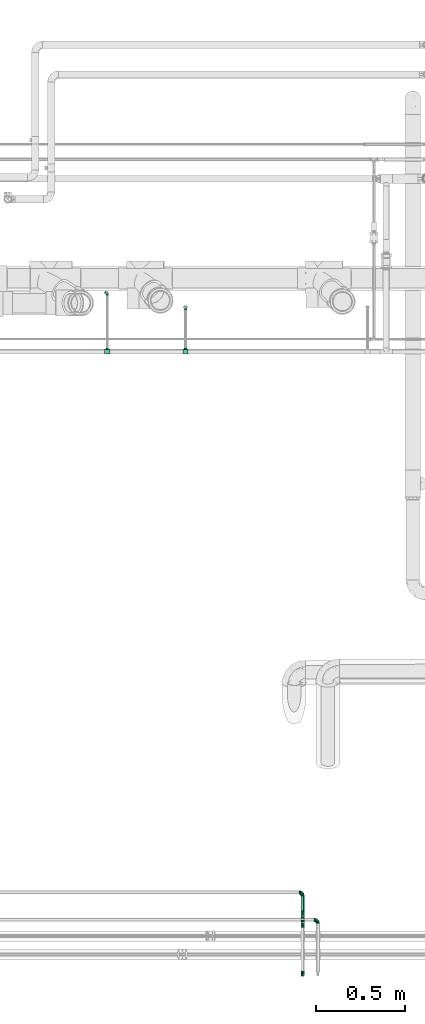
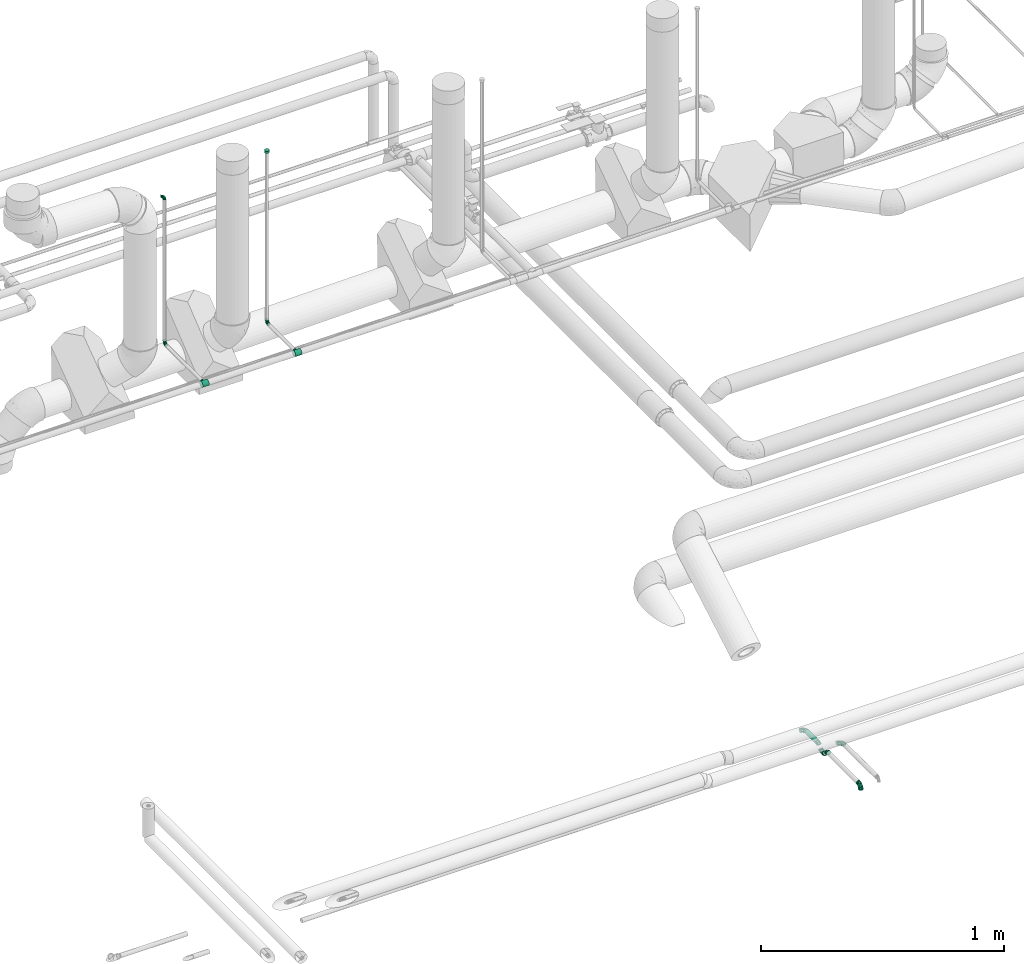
# One storey, part 83 of 156: 13 flow fittings, 1 flow segment.
"""IFC2X3 building model written with IfcOpenShell, lengths in millimetres."""

from ifc_helpers import new_model, entity, si_unit, converted_unit, derived_unit, direction, frame, origin_with_axes, origin_2d_with_axis, place, context, subcontext, project, spatial, hollow_circle, extrude, open_shell, surface_model, source, transform, mapped, type_object, element, save


model = new_model("IFC2X3")

# Units and contexts
model_context = context("Model", 3, precision=0.01, world=frame((0.0, 4.29681676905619e-09, 0.0)), true_north=direction((4.01073788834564e-13, 1.0)))
plan_context = context("Plan", 3, precision=0.01, world=frame((0.0, 4.29681676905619e-09, 0.0)), true_north=direction((4.01073788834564e-13, 1.0)))
body_context = subcontext(model_context, "Body", "Model", "MODEL_VIEW")
ifc_project = project(units=[converted_unit("PLANEANGLEUNIT", "DEGREE", entity("IfcPositiveLengthMeasure", 0.0174532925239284), si_unit("PLANEANGLEUNIT", "RADIAN"), dimensions=[0, 0, 0, 0, 0, 0, 0]), si_unit("AREAUNIT", "SQUARE_METRE"), si_unit("LENGTHUNIT", "METRE", prefix="MILLI"), si_unit("MASSUNIT", "GRAM", prefix="KILO"), si_unit("POWERUNIT", "WATT"), si_unit("PRESSUREUNIT", "PASCAL", prefix="KILO"), si_unit("FORCEUNIT", "NEWTON", prefix="KILO"), si_unit("ELECTRICVOLTAGEUNIT", "VOLT"), si_unit("ELECTRICCURRENTUNIT", "AMPERE"), si_unit("THERMODYNAMICTEMPERATUREUNIT", "DEGREE_CELSIUS"), si_unit("TIMEUNIT", "SECOND"), si_unit("VOLUMEUNIT", "CUBIC_METRE"), derived_unit("LINEARVELOCITYUNIT", [(si_unit("LENGTHUNIT", "METRE"), 1), (si_unit("TIMEUNIT", "SECOND"), -1)]), derived_unit("VOLUMETRICFLOWRATEUNIT", [(si_unit("VOLUMEUNIT", "CUBIC_METRE"), 1), (si_unit("TIMEUNIT", "SECOND"), -1)]), derived_unit("THERMALTRANSMITTANCEUNIT", [(si_unit("POWERUNIT", "WATT"), 1), (si_unit("THERMODYNAMICTEMPERATUREUNIT", "KELVIN"), -1), (si_unit("AREAUNIT", "SQUARE_METRE"), -1)]), derived_unit("SOUNDPRESSUREUNIT", [(si_unit("PRESSUREUNIT", "PASCAL"), 1)])], contexts=[model_context, plan_context])

# Site, building, storey
site_placement = place(None, frame((0.0, -4.29681676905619e-09, 0.0), z_axis=(0.0, 0.0, 1.0), x_axis=(1.0, 0.0, 0.0)))
site = spatial("IfcSite", under=ifc_project, at=site_placement, CompositionType="ELEMENT")
building_placement = place(site_placement, frame((0.0, 4.29681676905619e-09, 0.0), z_axis=(0.0, 0.0, 1.0), x_axis=(1.0, 0.0, 0.0)))
building = spatial("IfcBuilding", under=site, at=building_placement, Name="mc-building", CompositionType="ELEMENT")
storey_placement = place(building_placement, frame((0.0, 0.0, 205200.0), z_axis=(0.0, 0.0, 1.0), x_axis=(1.0, 0.0, 0.0)))
storey = spatial("IfcBuildingStorey", under=building, at=storey_placement, Name="Nivå D + 1,2 m", CompositionType="ELEMENT", Elevation=205200.0)

# Flow fittings
pipe_fitting_type_1 = type_object("IfcPipeFittingType", Name="magi_pipe_elbow_short_001", PredefinedType="BEND")
shared_shape_1 = source(origin_with_axes(), body_context, "Body", "SurfaceModel", [
    surface_model("IfcShellBasedSurfaceModel", [(-15.0, 0.0, -7.5), (-15.0, -6.49519, -3.75), (-15.0, 1.94114, -7.24444), (-15.0, 3.75, -6.49519), (-15.0, 5.3033, -5.3033), (-15.0, 7.24444, -1.94114), (-15.0, 6.49519, -3.75), (-15.0, -5.3033, -5.3033), (-15.0, -3.75, -6.49519), (-15.0, -1.94114, -7.24444), (-15.0, -7.24444, -1.94114), (-15.0, -7.5, 0.0), (-15.0, -6.49519, 3.75), (-15.0, 7.24444, 1.94114), (-15.0, 6.49519, 3.75), (-15.0, 3.75, 6.49519), (-15.0, 1.94114, 7.24444), (-15.0, 5.3033, 5.3033), (-15.0, -5.3033, 5.3033), (-15.0, -7.24444, 1.94114), (-15.0, -1.94114, 7.24444), (-15.0, 0.0, 7.5), (-15.0, -3.75, 6.49519), (-15.0, 7.5, 0.0), (-1.94114, 15.0, -7.24444), (6.49519, 15.0, -3.75), (0.0, 15.0, -7.5), (-5.3033, 15.0, -5.3033), (-3.75, 15.0, -6.49519), (-6.49519, 15.0, -3.75), (-7.24444, 15.0, -1.94114), (3.75, 15.0, -6.49519), (5.3033, 15.0, -5.3033), (1.94114, 15.0, -7.24444), (7.5, 15.0, 0.0), (7.24444, 15.0, -1.94114), (-7.24444, 15.0, 1.94114), (6.49519, 15.0, 3.75), (-3.75, 15.0, 6.49519), (-6.49519, 15.0, 3.75), (-1.94114, 15.0, 7.24444), (-5.3033, 15.0, 5.3033), (5.3033, 15.0, 5.3033), (7.24444, 15.0, 1.94114), (3.75, 15.0, 6.49519), (0.0, 15.0, 7.5), (1.94114, 15.0, 7.24444), (-7.5, 15.0, 0.0), (-13.40845, -7.07355, 0.0), (-8.7589, -2.47707, 6.60232), (-8.6338, -5.79418, 0.0), (-3.75, -4.48557, 0.0), (0.36779, -0.36779, 0.0), (2.42668, 1.69111, 0.0), (-2.25176, 0.98822, 6.3797), (-1.69111, -2.42668, 0.0), (-11.8169, -6.64709, 0.0), (-5.9304, 5.9304, 7.17811), (-4.11647, 8.02676, 7.20749), (2.47708, 8.7589, 6.60232), (1.67739, 4.87408, 5.99192), (4.48557, 3.75, 0.0), (-4.78013, -1.73268, 5.91836), (7.07355, 13.40845, 0.0), (6.64709, 11.8169, 0.0), (-8.02675, 4.11647, 7.20749), (-8.59835, 12.34835, 0.0), (-12.34835, 8.59835, 0.0), (-9.6967, 9.6967, 0.0), (5.79418, 8.6338, 0.0), (-8.7589, -2.47707, -6.60232), (-4.11647, 8.02676, -7.20749), (0.71542, 3.43733, -5.99192), (-2.23993, 1.78364, -6.69976), (2.47708, 8.7589, -6.60232), (-11.39207, 6.08032, -5.22727), (-7.08629, 1.82323, -7.49084), (-8.19523, 6.76007, -6.13545)], [open_shell([[[0, 1, 2]], [[3, 2, 4]], [[5, 6, 4]], [[4, 2, 1]], [[5, 4, 1]], [[7, 1, 8]], [[9, 8, 1]], [[10, 11, 1]], [[0, 9, 1]], [[11, 12, 1]], [[12, 5, 1]], [[13, 5, 12]], [[14, 13, 15]], [[13, 16, 15]], [[17, 14, 15]], [[16, 13, 12]], [[12, 18, 16]], [[12, 11, 19]], [[20, 21, 22]], [[18, 22, 21]], [[16, 18, 21]], [[13, 23, 5]], [[24, 25, 26]], [[27, 24, 28]], [[27, 29, 30]], [[25, 24, 27]], [[25, 27, 30]], [[31, 25, 32]], [[25, 31, 33]], [[25, 34, 35]], [[25, 33, 26]], [[30, 34, 25]], [[30, 36, 34]], [[34, 36, 37]], [[38, 36, 39]], [[38, 40, 36]], [[38, 39, 41]], [[37, 36, 40]], [[40, 42, 37]], [[43, 34, 37]], [[44, 45, 46]], [[45, 44, 42]], [[45, 42, 40]], [[36, 30, 47]], [[19, 48, 12]], [[49, 50, 51]], [[52, 53, 54]], [[54, 55, 52]], [[22, 18, 56]], [[12, 56, 18]], [[57, 54, 58]], [[22, 50, 20]], [[21, 20, 50]], [[59, 60, 61]], [[59, 58, 60]], [[55, 54, 62]], [[21, 50, 49]], [[21, 49, 16]], [[62, 49, 51]], [[62, 51, 55]], [[37, 63, 43]], [[49, 15, 16]], [[64, 63, 37]], [[13, 65, 23]], [[14, 17, 49]], [[54, 65, 62]], [[15, 49, 17]], [[57, 58, 66]], [[67, 57, 68]], [[53, 60, 54]], [[46, 45, 69]], [[69, 44, 46]], [[41, 59, 38]], [[40, 59, 45]], [[42, 44, 64]], [[54, 60, 58]], [[64, 44, 69]], [[61, 60, 53]], [[43, 63, 34]], [[59, 61, 69]], [[58, 47, 66]], [[22, 56, 50]], [[54, 57, 65]], [[49, 65, 14]], [[36, 47, 58]], [[64, 37, 42]], [[39, 36, 58]], [[14, 65, 13]], [[41, 39, 59]], [[19, 11, 48]], [[39, 58, 59]], [[48, 56, 12]], [[38, 59, 40]], [[59, 69, 45]], [[49, 62, 65]], [[57, 67, 65]], [[66, 68, 57]], [[67, 23, 65]], [[70, 50, 0]], [[71, 72, 73]], [[74, 71, 29]], [[70, 2, 3]], [[70, 51, 50]], [[35, 34, 63]], [[75, 4, 6]], [[75, 5, 23]], [[6, 5, 75]], [[51, 76, 55]], [[75, 23, 67]], [[70, 4, 75]], [[48, 11, 10]], [[8, 56, 7]], [[0, 50, 9]], [[51, 70, 76]], [[56, 8, 50]], [[8, 9, 50]], [[70, 0, 2]], [[66, 47, 71]], [[52, 72, 53]], [[4, 70, 3]], [[70, 75, 76]], [[73, 52, 55]], [[71, 68, 66]], [[61, 53, 72]], [[31, 64, 69]], [[30, 71, 47]], [[27, 74, 29]], [[56, 1, 7]], [[28, 24, 74]], [[63, 64, 25]], [[56, 48, 1]], [[28, 74, 27]], [[1, 48, 10]], [[26, 74, 24]], [[33, 69, 26]], [[29, 71, 30]], [[32, 64, 31]], [[69, 33, 31]], [[68, 71, 77]], [[74, 26, 69]], [[25, 35, 63]], [[61, 72, 74]], [[61, 74, 69]], [[67, 77, 75]], [[74, 72, 71]], [[25, 64, 32]], [[76, 77, 73]], [[75, 77, 76]], [[77, 71, 73]], [[55, 76, 73]], [[72, 52, 73]], [[77, 67, 68]]])]),
])
for number, where, z_axis, x_axis, name in (
    (1, (325167.58098, 462642.63355, 4318.0), (1.0, 0.0, 0.0), (0.0, 1.0, 0.0), "magi_pipe_elbow_short_001"),
    (2, (325607.72814, 462562.63355, 4318.0), (1.0, 0.0, 0.0), (0.0, 1.0, 0.0), "magi_pipe_elbow_short_001"),
    (3, (325167.58098, 462642.63355, 5058.84474), (-0.342019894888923, -0.939692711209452, 0.0), (0.0, 0.0, 1.0), "magi_pipe_elbow_short_001"),
):
    element("IfcFlowFitting", number, at=place(storey_placement, frame(where, z_axis=z_axis, x_axis=x_axis)), inside=storey, type_object=pipe_fitting_type_1, Name=name, context=body_context, shape_type="MappedRepresentation", body=[
        mapped(shared_shape_1, transform((0.0, 0.0, 0.0), scale=1.0)),
    ])
pipe_fitting_type_2 = type_object("IfcPipeFittingType", Name="magi_pipe_fe_plug_001", PredefinedType="OBSTRUCTION")
shared_shape_2 = source(origin_with_axes(), body_context, "Body", "SurfaceModel", [
    surface_model("IfcShellBasedSurfaceModel", [(0.0, 5.35, -9.26647), (0.0, 2.76936, -10.33541), (0.0, 0.0, -10.7), (0.0, 7.56604, -7.56604), (0.0, 9.26647, -5.35), (0.0, 0.0, 10.7), (0.0, -7.56604, -7.56604), (0.0, -10.7, 0.0), (0.0, -2.76936, -10.33541), (0.0, -5.35, -9.26647), (0.0, -10.33541, -2.76936), (0.0, -9.26647, -5.35), (0.0, 10.33541, -2.76936), (0.0, 10.7, 0.0), (0.0, 10.33541, 2.76936), (0.0, 2.76936, 10.33541), (0.0, 9.26647, 5.35), (0.0, 5.35, 9.26647), (0.0, 7.56604, 7.56604), (0.0, -9.26647, 5.35), (0.0, -7.56604, 7.56604), (0.0, -10.33541, 2.76936), (0.0, -5.35, 9.26647), (0.0, -2.76936, 10.33541), (10.7, 0.0, -10.7), (10.7, 2.76936, -10.33541), (10.7, 5.35, -9.26647), (10.7, -2.76936, -10.33541), (10.7, 9.26647, 5.35), (10.7, -10.7, 0.0), (10.7, 7.56604, -7.56604), (10.7, 10.7, 0.0), (10.7, 9.26647, -5.35), (10.7, -7.56604, -7.56604), (10.7, -5.35, -9.26647), (10.7, -10.33541, -2.76936), (10.7, -9.26647, -5.35), (10.7, 10.33541, -2.76936), (10.7, 10.33541, 2.76936), (10.7, 2.76936, 10.33541), (10.7, 5.35, 9.26647), (10.7, 7.56604, 7.56604), (10.7, 0.0, 10.7), (10.7, -10.33541, 2.76936), (10.7, -7.56604, 7.56604), (10.7, -9.26647, 5.35), (10.7, -2.76936, 10.33541), (10.7, -5.35, 9.26647)], [open_shell([[[0, 1, 2]], [[3, 0, 2]], [[4, 3, 5]], [[6, 3, 2]], [[3, 7, 5]], [[8, 9, 2]], [[9, 6, 2]], [[10, 7, 11]], [[6, 11, 7]], [[6, 7, 3]], [[12, 4, 13]], [[14, 13, 15]], [[16, 14, 15]], [[16, 15, 17]], [[18, 16, 17]], [[5, 15, 13]], [[19, 20, 21]], [[5, 21, 20]], [[22, 23, 20]], [[5, 20, 23]], [[21, 5, 7]], [[13, 4, 5]], [[24, 25, 26]], [[27, 24, 26]], [[28, 29, 30]], [[26, 30, 27]], [[31, 30, 32]], [[27, 33, 34]], [[33, 27, 35]], [[33, 35, 36]], [[35, 27, 29]], [[27, 30, 29]], [[32, 37, 31]], [[38, 28, 30]], [[39, 29, 28]], [[40, 39, 28]], [[40, 28, 41]], [[29, 39, 42]], [[43, 44, 45]], [[44, 43, 46]], [[44, 46, 47]], [[43, 29, 46]], [[42, 46, 29]], [[30, 31, 38]], [[43, 7, 29]], [[45, 21, 43]], [[20, 44, 47]], [[45, 44, 19]], [[22, 47, 46]], [[45, 19, 21]], [[21, 7, 43]], [[23, 42, 5]], [[23, 22, 46]], [[20, 47, 22]], [[20, 19, 44]], [[42, 23, 46]], [[40, 15, 39]], [[41, 17, 40]], [[16, 28, 38]], [[41, 28, 18]], [[14, 38, 31]], [[40, 17, 15]], [[15, 5, 39]], [[14, 16, 38]], [[18, 28, 16]], [[18, 17, 41]], [[13, 14, 31]], [[39, 5, 42]], [[37, 13, 31]], [[32, 12, 37]], [[3, 30, 26]], [[32, 30, 4]], [[0, 26, 25]], [[32, 4, 12]], [[12, 13, 37]], [[1, 24, 2]], [[1, 0, 25]], [[3, 26, 0]], [[3, 4, 30]], [[24, 1, 25]], [[34, 8, 27]], [[33, 9, 34]], [[11, 36, 35]], [[33, 36, 6]], [[10, 35, 29]], [[34, 9, 8]], [[8, 2, 27]], [[10, 11, 35]], [[6, 36, 11]], [[6, 9, 33]], [[7, 10, 29]], [[27, 2, 24]]])]),
])
flow_fitting_placement = place(storey_placement, frame((325607.72814, 462562.63355, 5174.0), z_axis=(0.0, -1.0, 0.0), x_axis=(0.0, 0.0, 1.0)))
element("IfcFlowFitting", 4, at=flow_fitting_placement, inside=storey, type_object=pipe_fitting_type_2, Name="magi_pipe_fe_plug_001", context=body_context, shape_type="MappedRepresentation", body=[
    mapped(shared_shape_2, transform((0.0, 0.0, 0.0), scale=1.0)),
])
pipe_fitting_type_3 = type_object("IfcPipeFittingType", Name="magi_pipe_tee_centric_90_001", PredefinedType="JUNCTION")
shared_shape_3 = source(origin_with_axes(), body_context, "Body", "SurfaceModel", [
    surface_model("IfcShellBasedSurfaceModel", [(-15.0, 3.62347, -13.52296), (-15.0, 0.0, -14.0), (-15.0, 9.89949, -9.89949), (-15.0, 7.0, -12.12436), (-15.0, 13.52296, -3.62347), (-15.0, 12.12436, -7.0), (-15.0, -12.12436, -7.0), (-15.0, -9.89949, -9.89949), (-15.0, -7.0, -12.12436), (-15.0, -3.62347, -13.52296), (-15.0, -13.52296, -3.62347), (-15.0, -14.0, 0.0), (-15.0, 14.0, 0.0), (-15.0, 12.12436, 7.0), (-15.0, 13.52296, 3.62347), (-15.0, 3.62347, 13.52296), (-15.0, 7.0, 12.12436), (-15.0, 9.89949, 9.89949), (-15.0, 0.0, 14.0), (-15.0, -13.52296, 3.62347), (-15.0, -12.12436, 7.0), (-15.0, -9.89949, 9.89949), (-15.0, -7.0, 12.12436), (-15.0, -3.62347, 13.52296), (15.0, 9.89949, -9.89949), (15.0, 0.0, -14.0), (15.0, 3.62347, -13.52296), (15.0, 7.0, -12.12436), (15.0, 12.12436, -7.0), (15.0, 13.52296, -3.62347), (15.0, -12.12436, -7.0), (15.0, -7.0, -12.12436), (15.0, -9.89949, -9.89949), (15.0, -3.62347, -13.52296), (15.0, -14.0, 0.0), (15.0, -13.52296, -3.62347), (15.0, -7.0, 12.12436), (15.0, 14.0, 0.0), (15.0, 13.52296, 3.62347), (15.0, 12.12436, 7.0), (15.0, 3.62347, 13.52296), (15.0, 7.0, 12.12436), (15.0, 9.89949, 9.89949), (15.0, 0.0, 14.0), (15.0, -12.12436, 7.0), (15.0, -13.52296, 3.62347), (15.0, -9.89949, 9.89949), (15.0, -3.62347, 13.52296), (15.0, -13.76148, 1.81173), (7.03381, -13.75589, 2.60297), (7.5, -14.0, 0.0), (5.73139, -13.13769, 4.83748), (1.3253, -11.89565, 7.38198), (15.0, -12.82366, 5.31173), (3.77416, -12.40944, 6.48118), (-3.77483, -12.40965, 6.48079), (-15.0, -12.82366, 5.31173), (-5.73324, -13.1385, 4.83528), (-7.03405, -13.75601, 2.60233), (-15.0, -13.76148, 1.81173), (-7.5, -14.0, 0.0), (-1.32746, -11.89589, 7.38159), (-5.73324, -13.1385, -4.83528), (-15.0, -12.82366, -5.31173), (-15.0, -13.76148, -1.81173), (-7.03405, -13.75601, -2.60233), (3.77416, -12.40944, -6.48118), (15.0, -12.82366, -5.31173), (5.73139, -13.13769, -4.83748), (1.3253, -11.89565, -7.38198), (7.03381, -13.75589, -2.60297), (15.0, -13.76148, -1.81173), (-1.32746, -11.89589, -7.38159), (-3.77483, -12.40965, -6.48079), (5.3033, -21.0, -5.3033), (0.0, -21.0, -7.5), (1.94114, -21.0, -7.24444), (3.75, -21.0, -6.49519), (6.49519, -21.0, -3.75), (7.24444, -21.0, -1.94114), (-5.3033, -21.0, -5.3033), (-7.5, -21.0, 0.0), (-1.94114, -21.0, -7.24444), (-3.75, -21.0, -6.49519), (-6.49519, -21.0, -3.75), (-7.24444, -21.0, -1.94114), (3.75, -21.0, 6.49519), (7.5, -21.0, 0.0), (7.24444, -21.0, 1.94114), (6.49519, -21.0, 3.75), (0.0, -21.0, 7.5), (5.3033, -21.0, 5.3033), (1.94114, -21.0, 7.24444), (-7.24444, -21.0, 1.94114), (-5.3033, -21.0, 5.3033), (-6.49519, -21.0, 3.75), (-3.75, -21.0, 6.49519), (-1.94114, -21.0, 7.24444)], [open_shell([[[0, 1, 2]], [[3, 0, 2]], [[1, 4, 5]], [[2, 1, 5]], [[6, 4, 1]], [[7, 6, 8]], [[9, 8, 6]], [[10, 11, 6]], [[1, 9, 6]], [[6, 11, 4]], [[11, 12, 4]], [[13, 14, 12]], [[15, 13, 12]], [[13, 15, 16]], [[17, 13, 16]], [[18, 15, 12]], [[19, 20, 11]], [[20, 21, 11]], [[22, 23, 12]], [[21, 22, 11]], [[12, 23, 18]], [[12, 11, 22]], [[24, 25, 26]], [[24, 26, 27]], [[28, 29, 25]], [[28, 25, 24]], [[25, 29, 30]], [[31, 30, 32]], [[30, 31, 33]], [[30, 34, 35]], [[30, 33, 25]], [[30, 36, 34]], [[30, 29, 37]], [[37, 38, 39]], [[37, 39, 40]], [[41, 40, 39]], [[41, 39, 42]], [[37, 40, 43]], [[34, 44, 45]], [[34, 46, 44]], [[47, 36, 30]], [[34, 36, 46]], [[43, 47, 37]], [[30, 37, 47]], [[48, 45, 49]], [[50, 34, 48]], [[45, 51, 49]], [[44, 46, 52]], [[50, 48, 49]], [[51, 53, 54]], [[52, 54, 44]], [[46, 21, 52]], [[54, 53, 44]], [[55, 56, 57]], [[58, 59, 60]], [[11, 60, 59]], [[58, 57, 19]], [[55, 61, 20]], [[51, 45, 53]], [[20, 56, 55]], [[20, 61, 21]], [[57, 56, 19]], [[61, 52, 21]], [[58, 19, 59]], [[46, 22, 21]], [[18, 47, 43]], [[23, 36, 47]], [[15, 43, 40]], [[39, 38, 14]], [[17, 41, 42]], [[13, 42, 39]], [[40, 41, 16]], [[12, 38, 37]], [[22, 36, 23]], [[23, 47, 18]], [[15, 18, 43]], [[40, 16, 15]], [[16, 41, 17]], [[13, 17, 42]], [[14, 13, 39]], [[38, 12, 14]], [[36, 22, 46]], [[29, 12, 37]], [[4, 29, 28]], [[28, 24, 5]], [[9, 25, 33]], [[62, 10, 63]], [[1, 26, 25]], [[27, 26, 0]], [[33, 31, 8]], [[24, 27, 2]], [[2, 5, 24]], [[5, 4, 28]], [[4, 12, 29]], [[60, 64, 65]], [[3, 2, 27]], [[26, 1, 0]], [[25, 9, 1]], [[33, 8, 9]], [[66, 67, 68]], [[27, 0, 3]], [[31, 7, 8]], [[32, 30, 69]], [[70, 35, 71]], [[66, 69, 30]], [[67, 66, 30]], [[32, 69, 7]], [[34, 50, 71]], [[70, 68, 35]], [[70, 71, 50]], [[35, 68, 67]], [[72, 73, 6]], [[6, 7, 72]], [[62, 63, 73]], [[72, 7, 69]], [[62, 65, 10]], [[65, 64, 10]], [[64, 60, 11]], [[63, 6, 73]], [[32, 7, 31]], [[74, 75, 76]], [[74, 76, 77]], [[74, 78, 79]], [[75, 74, 80]], [[81, 74, 79]], [[82, 80, 83]], [[82, 75, 80]], [[84, 81, 85]], [[81, 84, 80]], [[74, 81, 80]], [[79, 86, 81]], [[87, 88, 89]], [[89, 86, 79]], [[86, 90, 81]], [[86, 89, 91]], [[90, 86, 92]], [[93, 94, 95]], [[94, 93, 90]], [[96, 90, 97]], [[90, 96, 94]], [[81, 90, 93]], [[89, 79, 87]], [[60, 81, 93]], [[58, 95, 94]], [[93, 95, 60]], [[94, 96, 58]], [[60, 95, 58]], [[57, 58, 97]], [[61, 55, 54]], [[57, 51, 55]], [[97, 90, 57]], [[96, 97, 58]], [[92, 51, 90]], [[86, 49, 92]], [[49, 91, 89]], [[86, 91, 49]], [[50, 89, 88]], [[51, 54, 55]], [[52, 61, 54]], [[89, 50, 49]], [[49, 51, 92]], [[88, 87, 50]], [[57, 90, 51]], [[50, 87, 79]], [[70, 78, 74]], [[79, 78, 50]], [[74, 77, 70]], [[50, 78, 70]], [[68, 70, 76]], [[69, 66, 72]], [[68, 73, 66]], [[76, 75, 68]], [[77, 76, 70]], [[62, 75, 82]], [[83, 65, 82]], [[65, 80, 84]], [[83, 80, 65]], [[60, 84, 85]], [[62, 73, 68]], [[72, 66, 73]], [[84, 60, 65]], [[65, 62, 82]], [[85, 81, 60]], [[68, 75, 62]]])]),
])
for number, where, z_axis, x_axis, name in (
    (5, (325167.58098, 462313.63355, 4318.0), (0.0, 0.0, 1.0), (-1.0, 0.0, 0.0), "magi_pipe_tee_centric_90_001"),
    (6, (325607.72814, 462313.63355, 4318.0), (0.0, 0.0, 1.0), (-1.0, 0.0, 0.0), "magi_pipe_tee_centric_90_001"),
):
    element("IfcFlowFitting", number, at=place(storey_placement, frame(where, z_axis=z_axis, x_axis=x_axis)), inside=storey, type_object=pipe_fitting_type_3, Name=name, context=body_context, shape_type="MappedRepresentation", body=[
        mapped(shared_shape_3, transform((0.0, 0.0, 0.0), scale=1.0)),
    ])
pipe_fitting_type_4 = type_object("IfcPipeFittingType", Name="magi_pipe_fe_elbow_short_001", PredefinedType="BEND")
shared_shape_4 = source(origin_with_axes(), body_context, "Body", "SurfaceModel", [
    surface_model("IfcShellBasedSurfaceModel", [(-21.4, 2.76936, -10.33541), (-21.4, 0.0, -10.7), (-21.4, 7.56604, -7.56604), (-21.4, 5.35, -9.26647), (-21.4, 10.33541, -2.76936), (-21.4, 9.26647, -5.35), (-21.4, -7.56604, 7.56604), (-21.4, -5.35, -9.26647), (-21.4, -5.35, 9.26647), (-21.4, -7.56604, -7.56604), (-21.4, -9.26647, -5.35), (-21.4, -2.76936, -10.33541), (-21.4, -10.33541, -2.76936), (-21.4, -10.7, 0.0), (-21.4, 10.7, 0.0), (-21.4, 10.33541, 2.76936), (-21.4, 9.26647, 5.35), (-21.4, 7.56604, 7.56604), (-21.4, 5.35, 9.26647), (-21.4, 2.76936, 10.33541), (-21.4, -10.33541, 2.76936), (-21.4, -9.26647, 5.35), (-21.4, -2.76936, 10.33541), (-21.4, 0.0, 10.7), (-7.56604, 21.4, -7.56604), (0.0, 21.4, -10.7), (-2.76936, 21.4, -10.33541), (-5.35, 21.4, -9.26647), (-9.26647, 21.4, -5.35), (-10.33541, 21.4, -2.76936), (10.7, 21.4, 0.0), (5.35, 21.4, -9.26647), (9.26647, 21.4, -5.35), (7.56604, 21.4, -7.56604), (2.76936, 21.4, -10.33541), (10.33541, 21.4, -2.76936), (-10.33541, 21.4, 2.76936), (5.35, 21.4, 9.26647), (-7.56604, 21.4, 7.56604), (-9.26647, 21.4, 5.35), (-5.35, 21.4, 9.26647), (-2.76936, 21.4, 10.33541), (9.26647, 21.4, 5.35), (10.33541, 21.4, 2.76936), (7.56604, 21.4, 7.56604), (0.0, 21.4, 10.7), (2.76936, 21.4, 10.33541), (-10.7, 21.4, 0.0), (-17.99408, -9.78739, 0.0), (-9.96908, -7.6371, 0.0), (-9.09404, -6.9243, 4.95785), (-14.48689, -7.04149, 7.24979), (5.63065, 8.24892, 6.28438), (2.06258, 3.09852, 6.68299), (3.46206, 2.41265, 0.0), (0.98571, 10.3211, 10.08431), (-14.58817, -8.87478, 0.0), (5.00363, 14.04705, 8.8538), (-11.43216, -3.30045, 9.33143), (7.6371, 9.96908, 0.0), (8.87478, 14.58817, 0.0), (-7.84024, 13.84213, 8.94205), (-3.62699, 16.02976, 10.31804), (-15.33449, 3.33478, 10.44017), (-7.99137, -0.64527, 9.75219), (-12.26698, 17.61698, 0.0), (-13.83396, 13.83396, 0.0), (-5.22925, -4.43288, 5.66596), (6.39942, 5.35, 0.0), (-15.15468, 10.16047, 6.44408), (-10.16467, 10.01422, 9.23503), (9.78739, 17.99408, 0.0), (-7.22951, 3.98894, 10.64848), (-2.16379, -1.00373, 6.95774), (0.52471, -0.52471, 0.0), (-2.94157, 6.97816, 10.50675), (-17.61698, 12.26698, 0.0), (-2.41265, -3.46206, 0.0), (-5.35, -6.39942, 0.0), (-8.83498, -0.07405, -10.11828), (-2.16379, -1.00373, -6.95774), (-5.8406, -4.06158, -6.57779), (-7.84024, 13.84213, -8.94205), (-15.33449, 3.33478, -10.44017), (-11.43216, -3.30045, -9.33143), (-15.15468, 10.16047, -6.44408), (-7.22951, 3.98894, -10.64848), (-10.16467, 10.01422, -9.23503), (2.06258, 3.09852, -6.68299), (-2.94157, 6.97816, -10.50675), (-14.48689, -7.04149, -7.24979), (5.00363, 14.04705, -8.8538), (-3.62699, 16.02976, -10.31804), (0.98571, 10.3211, -10.08431), (5.63065, 8.24892, -6.28438), (-9.09404, -6.9243, -4.95785)], [open_shell([[[0, 1, 2]], [[3, 0, 2]], [[4, 5, 2]], [[6, 1, 7]], [[1, 8, 2]], [[9, 10, 7]], [[1, 11, 7]], [[12, 13, 10]], [[7, 10, 13]], [[13, 6, 7]], [[4, 2, 14]], [[8, 15, 2]], [[16, 15, 17]], [[8, 18, 15]], [[17, 15, 18]], [[18, 8, 19]], [[20, 21, 13]], [[13, 21, 6]], [[22, 23, 8]], [[6, 8, 1]], [[8, 23, 19]], [[15, 14, 2]], [[24, 25, 26]], [[24, 26, 27]], [[24, 28, 29]], [[24, 29, 25]], [[25, 29, 30]], [[31, 32, 33]], [[31, 34, 25]], [[32, 30, 35]], [[30, 32, 31]], [[25, 30, 31]], [[29, 36, 30]], [[30, 36, 37]], [[38, 36, 39]], [[36, 40, 37]], [[40, 36, 38]], [[41, 37, 40]], [[30, 42, 43]], [[44, 42, 30]], [[37, 45, 46]], [[30, 37, 44]], [[41, 45, 37]], [[29, 47, 36]], [[21, 20, 48]], [[49, 50, 51]], [[52, 53, 54]], [[52, 55, 53]], [[51, 6, 56]], [[6, 21, 56]], [[41, 57, 45]], [[23, 51, 58]], [[51, 22, 8]], [[57, 59, 60]], [[61, 55, 62]], [[63, 58, 64]], [[65, 66, 61]], [[51, 23, 22]], [[23, 58, 19]], [[67, 58, 50]], [[54, 68, 52]], [[63, 17, 18]], [[20, 13, 48]], [[14, 15, 69]], [[16, 17, 63]], [[62, 40, 38]], [[19, 58, 63]], [[16, 69, 15]], [[63, 18, 19]], [[59, 52, 68]], [[60, 44, 37]], [[57, 46, 45]], [[69, 70, 66]], [[52, 59, 57]], [[39, 62, 38]], [[60, 42, 44]], [[37, 57, 60]], [[37, 46, 57]], [[6, 51, 8]], [[43, 71, 30]], [[51, 56, 49]], [[70, 69, 72]], [[73, 74, 53]], [[75, 72, 73]], [[16, 63, 69]], [[47, 65, 36]], [[42, 71, 43]], [[55, 57, 62]], [[52, 57, 55]], [[41, 40, 62]], [[60, 71, 42]], [[36, 61, 39]], [[48, 56, 21]], [[61, 62, 39]], [[62, 57, 41]], [[69, 63, 72]], [[53, 75, 73]], [[69, 66, 76]], [[67, 64, 58]], [[75, 53, 55]], [[67, 77, 73]], [[55, 61, 75]], [[70, 75, 61]], [[50, 49, 78]], [[67, 50, 78]], [[51, 50, 58]], [[77, 74, 73]], [[73, 72, 64]], [[67, 78, 77]], [[73, 64, 67]], [[63, 64, 72]], [[36, 65, 61]], [[75, 70, 72]], [[14, 69, 76]], [[66, 70, 61]], [[53, 74, 54]], [[79, 80, 81]], [[65, 29, 82]], [[3, 2, 83]], [[0, 84, 1]], [[4, 14, 85]], [[10, 48, 12]], [[83, 5, 85]], [[85, 5, 4]], [[86, 85, 87]], [[83, 86, 79]], [[83, 84, 0]], [[48, 13, 12]], [[80, 77, 81]], [[88, 80, 89]], [[10, 9, 56]], [[7, 11, 90]], [[91, 31, 60]], [[9, 7, 90]], [[90, 11, 1]], [[84, 90, 1]], [[9, 90, 56]], [[28, 92, 82]], [[5, 83, 2]], [[85, 14, 76]], [[80, 88, 74]], [[82, 66, 65]], [[93, 82, 92]], [[28, 82, 29]], [[28, 24, 92]], [[24, 27, 92]], [[71, 60, 32]], [[91, 92, 26]], [[56, 48, 10]], [[35, 30, 71]], [[27, 26, 92]], [[94, 88, 93]], [[25, 91, 26]], [[31, 91, 34]], [[83, 0, 3]], [[94, 93, 91]], [[33, 60, 31]], [[89, 93, 88]], [[34, 91, 25]], [[71, 32, 35]], [[92, 91, 93]], [[59, 91, 60]], [[86, 83, 85]], [[95, 78, 49]], [[33, 32, 60]], [[66, 87, 85]], [[94, 59, 68]], [[89, 80, 86]], [[49, 56, 90]], [[94, 54, 88]], [[59, 94, 91]], [[95, 90, 84]], [[87, 89, 86]], [[82, 93, 89]], [[81, 78, 95]], [[90, 95, 49]], [[81, 95, 84]], [[79, 81, 84]], [[82, 87, 66]], [[83, 79, 84]], [[80, 79, 86]], [[77, 80, 74]], [[77, 78, 81]], [[47, 29, 65]], [[76, 66, 85]], [[89, 87, 82]], [[54, 94, 68]], [[54, 74, 88]]])]),
])
for number, where, z_axis, x_axis, name in (
    (7, (326265.45854, 459277.97279, 4038.0), (0.0, 0.0, 1.0), (0.0, 1.0, 0.0), "magi_pipe_fe_elbow_short_001"),
    (8, (326265.45854, 458814.82144, 4038.0), (1.0, 0.0, 0.0), (0.0, -1.0, 0.0), "magi_pipe_fe_elbow_short_001"),
    (9, (326351.10559, 459123.07852, 4038.0), (0.0, 0.00648799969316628, 0.999978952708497), (0.0, 0.999978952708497, -0.00648799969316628), "magi_pipe_fe_elbow_short_001"),
):
    element("IfcFlowFitting", number, at=place(storey_placement, frame(where, z_axis=z_axis, x_axis=x_axis)), inside=storey, type_object=pipe_fitting_type_4, Name=name, context=body_context, shape_type="MappedRepresentation", body=[
        mapped(shared_shape_4, transform((0.0, 0.0, 0.0), scale=1.0)),
    ])
shared_shape_5 = source(origin_with_axes(), body_context, "Body", "SurfaceModel", [
    surface_model("IfcShellBasedSurfaceModel", [(-8.86417, 2.76936, -10.33541), (-8.86417, 0.0, -10.7), (-8.86417, 7.56604, -7.56604), (-8.86417, 5.35, -9.26647), (-8.86417, 10.33541, -2.76936), (-8.86417, 9.26647, -5.35), (-8.86417, -7.56604, 7.56604), (-8.86417, -5.35, -9.26647), (-8.86417, -5.35, 9.26647), (-8.86417, -7.56604, -7.56604), (-8.86417, -9.26647, -5.35), (-8.86417, -2.76936, -10.33541), (-8.86417, -10.33541, -2.76936), (-8.86417, -10.7, 0.0), (-8.86417, 10.7, 0.0), (-8.86417, 10.33541, 2.76936), (-8.86417, 9.26647, 5.35), (-8.86417, 7.56604, 7.56604), (-8.86417, 5.35, 9.26647), (-8.86417, 2.76936, 10.33541), (-8.86417, -10.33541, 2.76936), (-8.86417, -9.26647, 5.35), (-8.86417, -2.76936, 10.33541), (-8.86417, 0.0, 10.7), (4.30968, 8.22615, -10.33541), (12.8203, -0.28447, 5.35), (6.26791, 6.26791, -10.7), (0.91791, 11.61791, -7.56604), (2.48489, 10.05094, -9.26647), (-0.28447, 12.8203, -5.35), (-1.04032, 13.57615, -2.76936), (10.05094, 2.48489, 9.26647), (13.57615, -1.04032, -2.76936), (13.57615, -1.04032, 2.76936), (10.05094, 2.48489, -9.26647), (12.8203, -0.28447, -5.35), (11.61791, 0.91791, -7.56604), (8.22615, 4.30968, -10.33541), (13.83396, -1.29813, 0.0), (-1.04032, 13.57615, 2.76936), (0.91791, 11.61791, 7.56604), (-0.28447, 12.8203, 5.35), (2.48489, 10.05094, 9.26647), (4.30968, 8.22615, 10.33541), (11.61791, 0.91791, 7.56604), (6.26791, 6.26791, 10.7), (8.22615, 4.30968, 10.33541), (-1.29813, 13.83396, 0.0), (-5.38847, -10.00864, 0.0), (-1.91277, -9.31728, 0.0), (-2.95339, -5.81608, 8.53701), (-2.97808, 7.26221, 8.80071), (0.50587, -1.22128, 10.24559), (1.41915, 4.83785, 10.52904), (-4.3905, 2.40817, 10.53205), (6.20095, -2.02423, 8.53701), (2.10838, -6.50826, 6.38277), (-4.76946, 11.51449, 0.0), (10.8874, -3.26695, 0.0), (7.94084, -5.23578, 0.0), (3.41997, -8.25653, 0.0), (-4.42437, 2.41739, -10.52904), (-2.95339, -5.81608, -8.53701), (-3.02933, 7.24098, -8.80071), (3.11119, -6.09289, -6.38277), (0.50587, -1.22128, -10.24559), (1.40172, 4.80739, -10.53205), (6.20095, -2.02423, -8.53701)], [open_shell([[[0, 1, 2]], [[3, 0, 2]], [[4, 5, 2]], [[6, 1, 7]], [[1, 8, 2]], [[9, 10, 7]], [[1, 11, 7]], [[12, 13, 10]], [[7, 10, 13]], [[13, 6, 7]], [[4, 2, 14]], [[8, 15, 2]], [[16, 15, 17]], [[18, 15, 8]], [[17, 15, 18]], [[19, 18, 8]], [[20, 21, 13]], [[13, 21, 6]], [[22, 23, 8]], [[6, 8, 1]], [[8, 23, 19]], [[15, 14, 2]], [[24, 25, 26]], [[27, 24, 28]], [[27, 29, 30]], [[31, 24, 27]], [[32, 26, 33]], [[34, 35, 36]], [[34, 37, 26]], [[34, 32, 35]], [[26, 32, 34]], [[32, 33, 38]], [[30, 39, 27]], [[27, 39, 31]], [[40, 39, 41]], [[39, 42, 31]], [[42, 39, 40]], [[43, 31, 42]], [[25, 31, 44]], [[33, 26, 25]], [[31, 45, 46]], [[24, 31, 25]], [[43, 45, 31]], [[30, 47, 39]], [[48, 6, 21]], [[6, 49, 50]], [[51, 52, 53]], [[50, 52, 54]], [[55, 52, 56]], [[23, 50, 54]], [[22, 8, 50]], [[51, 41, 39]], [[21, 20, 48]], [[49, 56, 50]], [[49, 6, 48]], [[54, 18, 19]], [[54, 17, 18]], [[50, 23, 22]], [[54, 19, 23]], [[16, 51, 15]], [[57, 14, 15]], [[51, 57, 15]], [[6, 50, 8]], [[51, 17, 54]], [[20, 13, 48]], [[52, 50, 56]], [[55, 31, 46]], [[45, 55, 46]], [[17, 51, 16]], [[53, 45, 43]], [[58, 44, 59]], [[55, 53, 52]], [[44, 31, 55]], [[33, 58, 38]], [[44, 55, 59]], [[39, 57, 51]], [[47, 57, 39]], [[56, 49, 60]], [[52, 51, 54]], [[58, 25, 44]], [[42, 40, 53]], [[25, 58, 33]], [[53, 43, 42]], [[59, 55, 56]], [[51, 53, 40]], [[51, 40, 41]], [[56, 60, 59]], [[55, 45, 53]], [[48, 10, 9]], [[10, 48, 12]], [[61, 3, 2]], [[1, 61, 62]], [[63, 4, 57]], [[64, 59, 60]], [[2, 5, 63]], [[49, 62, 64]], [[3, 61, 0]], [[65, 63, 66]], [[27, 63, 29]], [[61, 2, 63]], [[48, 13, 12]], [[9, 49, 48]], [[7, 11, 62]], [[9, 62, 49]], [[9, 7, 62]], [[62, 11, 1]], [[1, 0, 61]], [[62, 61, 65]], [[64, 60, 49]], [[4, 14, 57]], [[57, 47, 30]], [[59, 64, 67]], [[30, 29, 63]], [[24, 66, 28]], [[67, 26, 37]], [[66, 63, 27]], [[59, 36, 58]], [[36, 67, 34]], [[66, 27, 28]], [[66, 24, 26]], [[66, 26, 67]], [[66, 67, 65]], [[32, 38, 58]], [[63, 5, 4]], [[59, 67, 36]], [[32, 58, 35]], [[63, 65, 61]], [[65, 67, 64]], [[36, 35, 58]], [[62, 65, 64]], [[67, 37, 34]], [[57, 30, 63]]])]),
])
for number, where, z_axis, x_axis, name in (
    (10, (326265.45854, 459163.68413, 4038.0), (1.0, 0.0, 0.0), (0.0, -1.0, 0.0), "magi_pipe_fe_elbow_short_001"),
    (11, (326265.45854, 459139.90897, 4014.22485), (-1.0, 0.0, 0.0), (0.0, -0.707106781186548, -0.707106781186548), "magi_pipe_fe_elbow_short_001"),
    (12, (326265.45854, 459112.40897, 4014.22485), (-1.0, 0.0, 0.0), (0.0, -1.0, 0.0), "magi_pipe_fe_elbow_short_001"),
    (13, (326265.45854, 459088.63382, 4038.0), (1.0, 0.0, 0.0), (0.0, -0.707106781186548, 0.707106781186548), "magi_pipe_fe_elbow_short_001"),
):
    element("IfcFlowFitting", number, at=place(storey_placement, frame(where, z_axis=z_axis, x_axis=x_axis)), inside=storey, type_object=pipe_fitting_type_4, Name=name, context=body_context, shape_type="MappedRepresentation", body=[
        mapped(shared_shape_5, transform((0.0, 0.0, 0.0), scale=1.0)),
    ])

# Flow segment
pipe_segment_type = type_object("IfcPipeSegmentType", Name="Stålrør normaltykke", PredefinedType="RIGIDSEGMENT")
shared_shape_6 = source(origin_with_axes(), body_context, "Body", "SweptSolid", [
    extrude(hollow_circle(Radius=10.7, WallThickness=2.0, at=origin_2d_with_axis()), frame((0.0, 0.0, 0.0), z_axis=(1.0, 0.0, 0.0), x_axis=(0.0, 1.0, 0.0)), (0.0, 0.0, 1.0), 84.0),
])
flow_segment_placement = place(storey_placement, frame((326265.45854, 459256.57279, 4038.0), z_axis=(0.0, 0.0, 1.0), x_axis=(0.0, -1.0, 0.0)))
element("IfcFlowSegment", 14, at=flow_segment_placement, inside=storey, type_object=pipe_segment_type, Name="Stålrør normaltykke", context=body_context, shape_type="MappedRepresentation", body=[
    mapped(shared_shape_6, transform((0.0, 0.0, 0.0), scale=1.0)),
])

save(model, "model.ifc")
